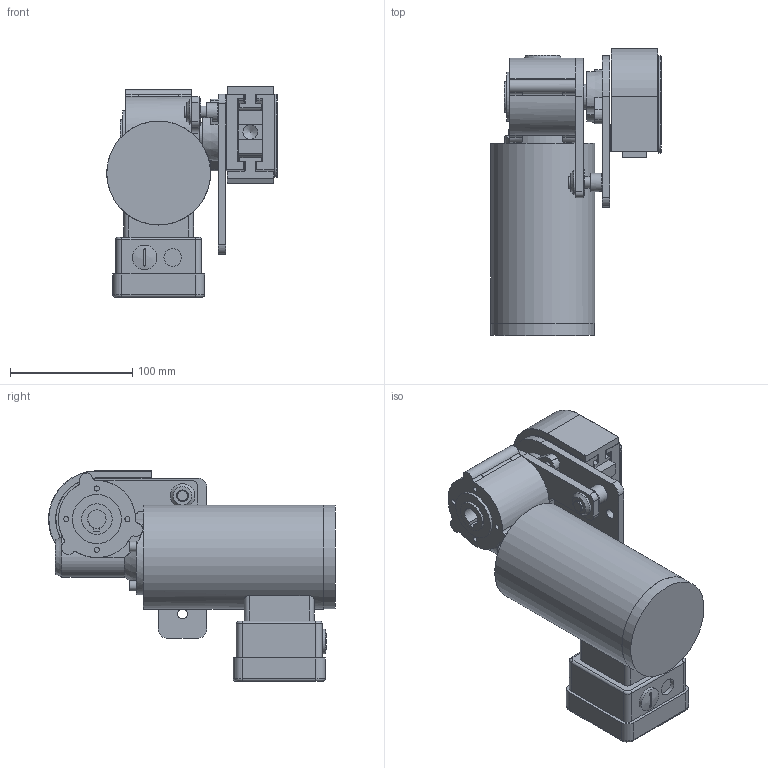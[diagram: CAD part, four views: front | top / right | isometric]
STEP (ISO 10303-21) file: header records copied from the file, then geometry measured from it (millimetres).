
FILE_DESCRIPTION((''),'2;1');
FILE_NAME('E:\Vault\Projekt\S380\3D S380\Serie 380\380-315V.stp','2010-11-30T15:07:39',('Per'),(''),'Autodesk Inventor 2011','Autodesk Inventor 2011','');
FILE_SCHEMA(('AUTOMOTIVE_DESIGN { 1 0 10303 214 1 1 1 1 }'));
Length unit declared in the file: millimetre
Products named in the file (1): 380-315V
Bounding box: 139.5 x 234.49 x 172 mm (x, y, z)
Volume: 1584670.1 mm3; surface area: 212149.2 mm2
Topology: 1 solids, 5 shells, 818 faces, 1941 edges, 1168 vertices
Faces by surface type: plane 333, cylinder 303, torus 119, sphere 33, bspline 16, cone 14
Full cylindrical faces by diameter (mm): 3.242 x2, 4 x8, 4.134 x9, 4.917 x2, 5.2 x4, 6.647 x2, 7 x6, 7.5 x4, 8 x4, 8.5 x3, 9.4 x1, 9.6 x1, 12 x1, 14.376 x2, 15 x2, 20 x2, 20.5 x1, 21.5 x1, 22 x2, 25 x3, 27 x1, 32 x2, 33 x1, 33.7 x1, 34 x2, 35 x1, 40 x2, 40.2 x1, 56 x1, 84.8 x1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
Entity records: 30177 total; most frequent: CARTESIAN_POINT 10812, DIRECTION 4084, ORIENTED_EDGE 3518, EDGE_CURVE 1759, AXIS2_PLACEMENT_3D 1596, VERTEX_POINT 1140, EDGE_LOOP 1041, VECTOR 892
